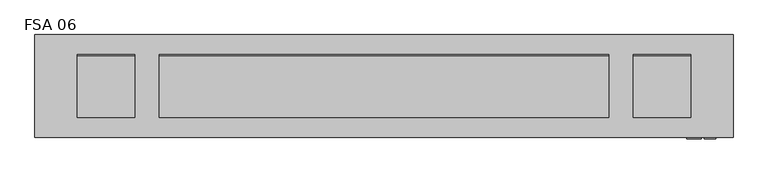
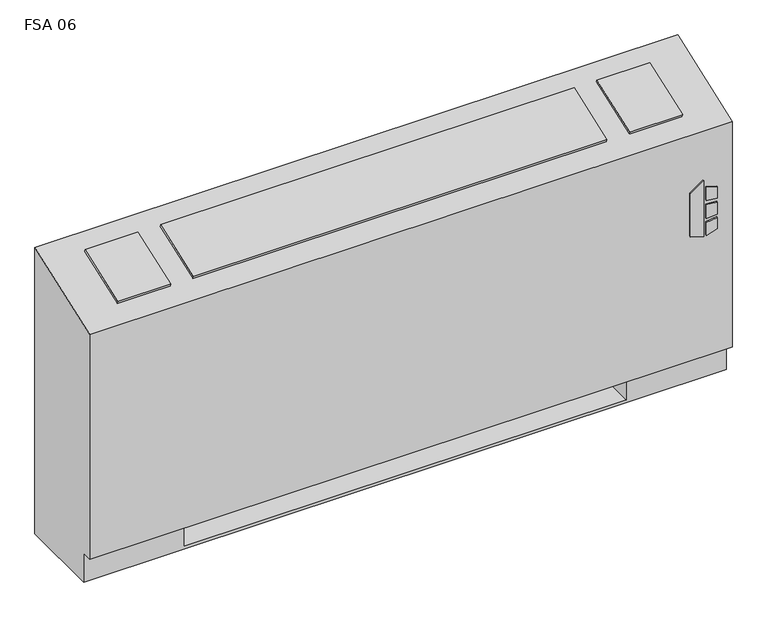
"""IFC4 building model written with IfcOpenShell, lengths in millimetres: proxy geometry, Vertical_Fan_Coil_Unit_-_FSA_-_IEC_-_2-Pipe_TS-FR_LH_2022 : FSA 06."""

from ifc_helpers import new_model, si_unit, point, frame, frame_2d, origin, place, context, project, spatial, polyline, circle_curve, trimmed, segment, composite_curve, outline, extrude, source, transform, mapped, element, save
from ifc_brep_helpers import plane_surface, revolved_surface, advanced_brep


def fsa_06_9042caff(model_context):
    return source(origin(), model_context, "Body", "SolidModel", [
        extrude(outline(polyline([(391.6086829, 823.9868862), (381.6606126, 856.1602728), (523.831537, 856.1602728), (500.8095309, 823.9868862), (391.6086829, 823.9868862)])), frame((0.0, 12.7, 0.0), z_axis=(0.0, 1.0, 0.0), x_axis=(0.0, 0.0, 1.0)), (0.0, 0.0, 1.0), 3.175),
        extrude(outline(polyline([(470.6079683, 862.9186058), (467.4055757, 889.0), (496.6344168, 889.0), (504.6988318, 862.9186058), (470.6079683, 862.9186058)])), frame((0.0, 12.7, 0.0), z_axis=(0.0, 1.0, 0.0), x_axis=(0.0, 0.0, 1.0)), (0.0, 0.0, 1.0), 3.175),
        extrude(outline(polyline([(418.7444414, 889.0), (415.0789404, 862.9186058), (381.6606126, 862.9186058), (390.2948498, 889.0), (418.7444414, 889.0)])), frame((0.0, 12.7, 0.0), z_axis=(0.0, 1.0, 0.0), x_axis=(0.0, 0.0, 1.0)), (0.0, 0.0, 1.0), 3.175),
        extrude(outline(polyline([(458.0596028, 889.0), (460.3414292, 862.9186058), (424.4038806, 862.9186058), (427.1451456, 889.0), (458.0596028, 889.0)])), frame((0.0, 12.7, 0.0), z_axis=(0.0, 1.0, 0.0), x_axis=(0.0, 0.0, 1.0)), (0.0, 0.0, 1.0), 3.175),
        extrude(outline(polyline([(806.45, 223.266), (806.45, 81.534), (685.8, 81.534), (685.8, 223.266), (806.45, 223.266)])), frame((0.0, 0.0, 327.025), z_axis=(0.0, 0.0, 1.0), x_axis=(1.0, 0.0, 0.0)), (0.0, 0.0, 1.0), 260.35),
        extrude(outline(composite_curve([segment(trimmed(circle_curve(frame_2d((-444.5, 130.175)), 9.525), [point((-454.025, 130.175))], [point((-434.975, 130.175))], False, "CARTESIAN"), True, "CONTINUOUS"), segment(trimmed(circle_curve(frame_2d((-444.5, 130.175)), 9.525), [point((-434.975, 130.175))], [point((-454.025, 130.175))], False, "CARTESIAN"), True, "CONTINUOUS")], self_intersect=False)), frame((0.0, 0.0, 101.6), z_axis=(0.0, 0.0, 1.0), x_axis=(1.0, 0.0, 0.0)), (0.0, 0.0, 1.0), 25.4),
        extrude(outline(polyline([(-546.1, 63.5), (-546.1, 196.85), (-381.0, 196.85), (-381.0, 63.5), (-546.1, 63.5)])), frame((0.0, 0.0, 127.0), z_axis=(0.0, 0.0, 1.0), x_axis=(1.0, 0.0, 0.0)), (0.0, 0.0, 1.0), 50.8),
        extrude(outline(polyline([(0.0, -146.0500001), (0.0, 0.0), (127.0, 0.0), (127.0, -146.0500001), (0.0, -146.0500001)])), frame((-528.193, 200.4217127, 714.3418685), z_axis=(0.0, -0.3396444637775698, 0.9405538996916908), x_axis=(1.0, 0.0, 0.0)), (0.0, 0.0, 1.0), 6.35),
        extrude(outline(polyline([(0.0, -146.0500001), (0.0, 0.0), (996.95, 0.0), (996.95, -146.0500001), (0.0, -146.0500001)])), frame((650.875, 63.0538156, 664.7367945), z_axis=(0.0, -0.33964446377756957, 0.9405538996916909), x_axis=(-1.0, 0.0, 0.0)), (0.0, 0.0, 1.0), 6.35),
        extrude(outline(polyline([(0.0, -146.0500001), (0.0, 0.0), (127.0, 0.0), (127.0, -146.0500001), (0.0, -146.0500001)])), frame((832.993, 63.0538156, 664.7367945), z_axis=(0.0, -0.3396444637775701, 0.9405538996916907), x_axis=(-1.0, 0.0, 0.0)), (0.0, 0.0, 1.0), 6.35),
        extrude(outline(composite_curve([segment(trimmed(circle_curve(frame_2d((109.347, 456.819)), 7.9375), [point((109.347, 464.7565))], [point((109.347, 448.8815))], False, "CARTESIAN"), True, "CONTINUOUS"), segment(trimmed(circle_curve(frame_2d((109.347, 456.819)), 7.9375), [point((109.347, 448.8815))], [point((109.347, 464.7565))], False, "CARTESIAN"), True, "CONTINUOUS")], self_intersect=False)), frame((-431.8, 0.0, 0.0), z_axis=(1.0, 0.0, 0.0), x_axis=(0.0, 1.0, 0.0)), (0.0, 0.0, 1.0), 50.8),
        extrude(outline(composite_curve([segment(trimmed(circle_curve(frame_2d((157.4546, 429.4632)), 7.9375), [point((157.4546, 437.4007))], [point((157.4546, 421.5257))], False, "CARTESIAN"), True, "CONTINUOUS"), segment(trimmed(circle_curve(frame_2d((157.4546, 429.4632)), 7.9375), [point((157.4546, 421.5257))], [point((157.4546, 437.4007))], False, "CARTESIAN"), True, "CONTINUOUS")], self_intersect=False)), frame((-431.8, 0.0, 0.0), z_axis=(1.0, 0.0, 0.0), x_axis=(0.0, 1.0, 0.0)), (0.0, 0.0, 1.0), 50.8),
        advanced_brep(
        [(-622.3, 244.475, 0.0), (927.1, 244.475, 0.0), (927.1, 41.275, 0.0), (-622.3, 41.275, 0.0), (-622.3, 244.475, 730.25), (927.1, 244.475, 730.25), (685.8, 244.475, 73.025), (914.4, 244.475, 73.025), (914.4, 244.475, 654.05), (685.8, 244.475, 654.05), (685.8, 244.475, 414.8650565), (714.375, 244.475, 414.8650565), (714.375, 244.475, 385.2349435), (685.8, 244.475, 385.2349435), (685.8, 244.475, 287.3375), (714.375, 244.475, 287.3375), (714.375, 244.475, 258.7625), (685.8, 244.475, 258.7625), (685.8, 244.475, 141.2875), (714.375, 244.475, 141.2875), (714.375, 244.475, 112.7125), (685.8, 244.475, 112.7125), (-381.0, 244.475, 654.05), (-609.6, 244.475, 654.05), (-609.6, 244.475, 73.025), (-381.0, 244.475, 73.025), (-381.0, 244.475, 112.7125), (-409.575, 244.475, 112.7125), (-409.575, 244.475, 141.2875), (-381.0, 244.475, 141.2875), (-381.0, 244.475, 258.7625), (-409.575, 244.475, 258.7625), (-409.575, 244.475, 287.3375), (-381.0, 244.475, 287.3375), (-381.0, 244.475, 385.2349435), (-409.575, 244.475, 385.2349435), (-409.575, 244.475, 414.8650565), (-381.0, 244.475, 414.8650565), (704.0626, 244.475, 127.0), (692.9374, 244.475, 127.0), (704.0626, 244.475, 400.05), (692.9374, 244.475, 400.05), (704.0626, 244.475, 273.05), (692.9374, 244.475, 273.05), (-388.1374, 244.475, 127.0), (-399.2626, 244.475, 127.0), (-388.1374, 244.475, 273.05), (-399.2626, 244.475, 273.05), (-388.1374, 244.475, 400.05), (-399.2626, 244.475, 400.05), (-622.3, 41.275, 73.025), (-622.3, 15.875, 73.025), (-622.3, 15.875, 647.7), (927.1, 15.875, 73.025), (927.1, 15.875, 647.7), (927.1, 41.275, 73.025), (-381.0, 41.275, 73.025), (-381.0, 225.425, 73.025), (685.8, 225.425, 73.025), (685.8, 41.275, 73.025), (685.8, 41.275, 6.35), (-381.0, 41.275, 6.35), (685.8, 41.275, 654.05), (914.4, 41.275, 654.05), (914.4, 41.275, 73.025), (685.8, 41.275, 73.025), (-381.0, 41.275, 654.05), (-381.0, 41.275, 73.025), (-609.6, 41.275, 73.025), (-609.6, 41.275, 654.05), (685.8, 225.425, 73.025), (685.8, 238.125, 112.7125), (685.8, 238.125, 141.2875), (685.8, 238.125, 258.7625), (685.8, 238.125, 287.3375), (685.8, 238.125, 385.2349435), (685.8, 238.125, 414.8650565), (-381.0, 225.425, 73.025), (-381.0, 238.125, 414.8650565), (-381.0, 238.125, 385.2349435), (-381.0, 238.125, 287.3375), (-381.0, 238.125, 258.7625), (-381.0, 238.125, 141.2875), (-381.0, 238.125, 112.7125), (-381.0, 225.425, 6.35), (685.8, 225.425, 6.35), (714.375, 238.125, 112.7125), (714.375, 238.125, 141.2875), (692.9374, 238.125, 127.0), (704.0626, 238.125, 127.0), (714.375, 238.125, 258.7625), (714.375, 238.125, 287.3375), (692.9374, 238.125, 273.05), (704.0626, 238.125, 273.05), (714.375, 238.125, 385.2349435), (714.375, 238.125, 414.8650565), (692.9374, 238.125, 400.05), (704.0626, 238.125, 400.05), (-409.575, 238.125, 141.2875), (-409.575, 238.125, 112.7125), (-399.2626, 238.125, 127.0), (-388.1374, 238.125, 127.0), (-409.575, 238.125, 287.3375), (-409.575, 238.125, 258.7625), (-399.2626, 238.125, 273.05), (-388.1374, 238.125, 273.05), (-409.575, 238.125, 414.8650565), (-409.575, 238.125, 385.2349435), (-399.2626, 238.125, 400.05), (-388.1374, 238.125, 400.05)],
        [
            (0, 1),
            (1, 2),
            (2, 3),
            (3, 0),
            (0, 4),
            (4, 5),
            (5, 1),
            (6, 7),
            (7, 8),
            (8, 9),
            (9, 10),
            (10, 11),
            (11, 12),
            (12, 13),
            (13, 14),
            (14, 15),
            (15, 16),
            (16, 17),
            (17, 18),
            (18, 19),
            (19, 20),
            (20, 21),
            (21, 6),
            (22, 23),
            (23, 24),
            (24, 25),
            (25, 26),
            (26, 27),
            (27, 28),
            (28, 29),
            (29, 30),
            (30, 31),
            (31, 32),
            (32, 33),
            (33, 34),
            (34, 35),
            (35, 36),
            (36, 37),
            (37, 22),
            (38, 39, circle_curve(frame((698.5, 244.475, 127.0), z_axis=(0.0, -1.0, 0.0), x_axis=(-1.0, 0.0, 0.0)), 5.5626)),
            (39, 38, circle_curve(frame((698.5, 244.475, 127.0), z_axis=(0.0, -1.0, 0.0), x_axis=(-1.0, 0.0, 0.0)), 5.5626)),
            (40, 41, circle_curve(frame((698.5, 244.475, 400.05), z_axis=(0.0, -1.0, 0.0), x_axis=(-1.0, 0.0, 0.0)), 5.5626)),
            (41, 40, circle_curve(frame((698.5, 244.475, 400.05), z_axis=(0.0, -1.0, 0.0), x_axis=(-1.0, 0.0, 0.0)), 5.5626)),
            (42, 43, circle_curve(frame((698.5, 244.475, 273.05), z_axis=(0.0, -1.0, 0.0), x_axis=(-1.0, 0.0, 0.0)), 5.5626)),
            (43, 42, circle_curve(frame((698.5, 244.475, 273.05), z_axis=(0.0, -1.0, 0.0), x_axis=(-1.0, 0.0, 0.0)), 5.5626)),
            (44, 45, circle_curve(frame((-393.7, 244.475, 127.0), z_axis=(0.0, -1.0, 0.0), x_axis=(-1.0, 0.0, 0.0)), 5.5626)),
            (45, 44, circle_curve(frame((-393.7, 244.475, 127.0), z_axis=(0.0, -1.0, 0.0), x_axis=(-1.0, 0.0, 0.0)), 5.5626)),
            (46, 47, circle_curve(frame((-393.7, 244.475, 273.05), z_axis=(0.0, -1.0, 0.0), x_axis=(-1.0, 0.0, 0.0)), 5.5626)),
            (47, 46, circle_curve(frame((-393.7, 244.475, 273.05), z_axis=(0.0, -1.0, 0.0), x_axis=(-1.0, 0.0, 0.0)), 5.5626)),
            (48, 49, circle_curve(frame((-393.7, 244.475, 400.05), z_axis=(0.0, -1.0, 0.0), x_axis=(-1.0, 0.0, 0.0)), 5.5626)),
            (49, 48, circle_curve(frame((-393.7, 244.475, 400.05), z_axis=(0.0, -1.0, 0.0), x_axis=(-1.0, 0.0, 0.0)), 5.5626)),
            (3, 50),
            (50, 51),
            (51, 52),
            (52, 4),
            (51, 53),
            (53, 54),
            (54, 52),
            (5, 54),
            (53, 55),
            (55, 2),
            (50, 56),
            (56, 57),
            (57, 58),
            (58, 59),
            (59, 55),
            (59, 60),
            (60, 61),
            (61, 56),
            (62, 63),
            (63, 64),
            (64, 65),
            (65, 62),
            (66, 67),
            (67, 68),
            (68, 69),
            (69, 66),
            (65, 70),
            (70, 6),
            (21, 71),
            (71, 72),
            (72, 18),
            (17, 73),
            (73, 74),
            (74, 14),
            (13, 75),
            (75, 76),
            (76, 10),
            (9, 62),
            (64, 7),
            (63, 8),
            (69, 23),
            (22, 66),
            (68, 24),
            (67, 77),
            (77, 25),
            (37, 78),
            (78, 79),
            (79, 34),
            (33, 80),
            (80, 81),
            (81, 30),
            (29, 82),
            (82, 83),
            (83, 26),
            (57, 84),
            (84, 85),
            (85, 58),
            (85, 60),
            (84, 61),
            (71, 86),
            (86, 87),
            (87, 72),
            (88, 89, circle_curve(frame((698.5, 238.125, 127.0), z_axis=(0.0, 1.0, 0.0), x_axis=(-1.0, 0.0, 0.0)), 5.5626)),
            (89, 88, circle_curve(frame((698.5, 238.125, 127.0), z_axis=(0.0, 1.0, 0.0), x_axis=(-1.0, 0.0, 0.0)), 5.5626)),
            (73, 90),
            (90, 91),
            (91, 74),
            (92, 93, circle_curve(frame((698.5, 238.125, 273.05), z_axis=(0.0, 1.0, 0.0), x_axis=(-1.0, 0.0, 0.0)), 5.5626)),
            (93, 92, circle_curve(frame((698.5, 238.125, 273.05), z_axis=(0.0, 1.0, 0.0), x_axis=(-1.0, 0.0, 0.0)), 5.5626)),
            (75, 94),
            (94, 95),
            (95, 76),
            (96, 97, circle_curve(frame((698.5, 238.125, 400.05), z_axis=(0.0, 1.0, 0.0), x_axis=(-1.0, 0.0, 0.0)), 5.5626)),
            (97, 96, circle_curve(frame((698.5, 238.125, 400.05), z_axis=(0.0, 1.0, 0.0), x_axis=(-1.0, 0.0, 0.0)), 5.5626)),
            (98, 99),
            (99, 83),
            (82, 98),
            (100, 101, circle_curve(frame((-393.7, 238.125, 127.0), z_axis=(0.0, 1.0, 0.0), x_axis=(-1.0, 0.0, 0.0)), 5.5626)),
            (101, 100, circle_curve(frame((-393.7, 238.125, 127.0), z_axis=(0.0, 1.0, 0.0), x_axis=(-1.0, 0.0, 0.0)), 5.5626)),
            (102, 103),
            (103, 81),
            (80, 102),
            (104, 105, circle_curve(frame((-393.7, 238.125, 273.05), z_axis=(0.0, 1.0, 0.0), x_axis=(-1.0, 0.0, 0.0)), 5.5626)),
            (105, 104, circle_curve(frame((-393.7, 238.125, 273.05), z_axis=(0.0, 1.0, 0.0), x_axis=(-1.0, 0.0, 0.0)), 5.5626)),
            (106, 107),
            (107, 79),
            (78, 106),
            (108, 109, circle_curve(frame((-393.7, 238.125, 400.05), z_axis=(0.0, 1.0, 0.0), x_axis=(-1.0, 0.0, 0.0)), 5.5626)),
            (109, 108, circle_curve(frame((-393.7, 238.125, 400.05), z_axis=(0.0, 1.0, 0.0), x_axis=(-1.0, 0.0, 0.0)), 5.5626)),
            (87, 19),
            (86, 20),
            (91, 15),
            (90, 16),
            (95, 11),
            (94, 12),
            (28, 98),
            (99, 27),
            (32, 102),
            (103, 31),
            (36, 106),
            (107, 35),
            (88, 39),
            (38, 89),
            (96, 41),
            (40, 97),
            (92, 43),
            (42, 93),
            (100, 45),
            (44, 101),
            (104, 47),
            (46, 105),
            (108, 49),
            (48, 109),
        ],
        [
            plane_surface(frame((-622.3, 244.475, 0.0), z_axis=(0.0, 0.0, -1.0), x_axis=(1.0, 0.0, 0.0))),
            plane_surface(frame((927.1, 244.475, 730.25), z_axis=(0.0, 1.0, 0.0), x_axis=(0.0, 0.0, -1.0))),
            plane_surface(frame((-622.3, 244.475, 730.25), z_axis=(-1.0, 0.0, 0.0), x_axis=(0.0, 0.0, -1.0))),
            plane_surface(frame((-622.3, 15.875, 730.25), z_axis=(0.0, -1.0, 0.0), x_axis=(0.0, 0.0, -1.0))),
            plane_surface(frame((927.1, 15.875, 730.25), z_axis=(1.0, 0.0, 0.0), x_axis=(0.0, 0.0, -1.0))),
            plane_surface(frame((-622.3, 15.875, 73.025), z_axis=(0.0, 0.0, -1.0), x_axis=(1.0, 0.0, 0.0))),
            plane_surface(frame((-622.3, 41.275, 73.025), z_axis=(0.0, -1.0, 0.0), x_axis=(1.0, 0.0, 0.0))),
            plane_surface(frame((685.8, 41.275, 654.05), z_axis=(0.0, 1.0, 0.0), x_axis=(0.0, 0.0, -1.0))),
            plane_surface(frame((685.8, 41.275, 654.05), z_axis=(1.0, 0.0, 0.0), x_axis=(0.0, 1.0, 0.0))),
            plane_surface(frame((685.8, 41.275, 73.025), z_axis=(0.0, 0.0, 1.0), x_axis=(0.0, 1.0, 0.0))),
            plane_surface(frame((914.4, 41.275, 73.025), z_axis=(-1.0, 0.0, 0.0), x_axis=(0.0, 1.0, 0.0))),
            plane_surface(frame((914.4, 41.275, 654.05), z_axis=(0.0, 0.0, -1.0), x_axis=(0.0, 1.0, 0.0))),
            plane_surface(frame((-381.0, 41.275, 654.05), z_axis=(0.0, 0.0, -1.0), x_axis=(0.0, 1.0, 0.0))),
            plane_surface(frame((-609.6, 41.275, 654.05), z_axis=(1.0, 0.0, 0.0), x_axis=(0.0, 1.0, 0.0))),
            plane_surface(frame((-609.6, 41.275, 73.025), z_axis=(0.0, 0.0, 1.0), x_axis=(0.0, 1.0, 0.0))),
            plane_surface(frame((-381.0, 41.275, 73.025), z_axis=(-1.0, 0.0, 0.0), x_axis=(0.0, 1.0, 0.0))),
            plane_surface(frame((685.8, 225.425, 73.025), z_axis=(0.0, -1.0, 0.0), x_axis=(0.0, 0.0, -1.0))),
            plane_surface(frame((685.8, 225.425, 73.025), z_axis=(-1.0, 0.0, 0.0), x_axis=(0.0, -1.0, 0.0))),
            plane_surface(frame((685.8, 225.425, 6.35), z_axis=(0.0, 0.0, 1.0), x_axis=(0.0, -1.0, 0.0))),
            plane_surface(frame((-381.0, 225.425, 6.35), z_axis=(1.0, 0.0, 0.0), x_axis=(0.0, -1.0, 0.0))),
            plane_surface(frame((714.375, 238.125, 141.2875), z_axis=(0.0, -1.0, 0.0), x_axis=(-1.0, 0.0, 0.0))),
            plane_surface(frame((685.8, 244.475, 141.2875), z_axis=(0.0, 0.0, 1.0), x_axis=(0.0, -1.0, 0.0))),
            plane_surface(frame((714.375, 244.475, 141.2875), z_axis=(1.0, 0.0, 0.0), x_axis=(0.0, -1.0, 0.0))),
            plane_surface(frame((714.375, 244.475, 112.7125), z_axis=(0.0, 0.0, -1.0), x_axis=(0.0, -1.0, 0.0))),
            plane_surface(frame((685.8, 244.475, 287.3375), z_axis=(0.0, 0.0, 1.0), x_axis=(0.0, -1.0, 0.0))),
            plane_surface(frame((714.375, 244.475, 287.3375), z_axis=(1.0, 0.0, 0.0), x_axis=(0.0, -1.0, 0.0))),
            plane_surface(frame((714.375, 244.475, 258.7625), z_axis=(0.0, 0.0, -1.0), x_axis=(0.0, -1.0, 0.0))),
            plane_surface(frame((685.8, 244.475, 414.8650565), z_axis=(0.0, 0.0, 1.0), x_axis=(0.0, -1.0, 0.0))),
            plane_surface(frame((714.375, 244.475, 414.8650565), z_axis=(1.0, 0.0, 0.0), x_axis=(0.0, -1.0, 0.0))),
            plane_surface(frame((714.375, 244.475, 385.2349435), z_axis=(0.0, 0.0, -1.0), x_axis=(0.0, -1.0, 0.0))),
            plane_surface(frame((-409.575, 244.475, 141.2875), z_axis=(0.0, 0.0, 1.0), x_axis=(0.0, -1.0, 0.0))),
            plane_surface(frame((-381.0, 244.475, 112.7125), z_axis=(0.0, 0.0, -1.0), x_axis=(0.0, -1.0, 0.0))),
            plane_surface(frame((-409.575, 244.475, 112.7125), z_axis=(-1.0, 0.0, 0.0), x_axis=(0.0, -1.0, 0.0))),
            plane_surface(frame((-409.575, 244.475, 287.3375), z_axis=(0.0, 0.0, 1.0), x_axis=(0.0, -1.0, 0.0))),
            plane_surface(frame((-381.0, 244.475, 258.7625), z_axis=(0.0, 0.0, -1.0), x_axis=(0.0, -1.0, 0.0))),
            plane_surface(frame((-409.575, 244.475, 258.7625), z_axis=(-1.0, 0.0, 0.0), x_axis=(0.0, -1.0, 0.0))),
            plane_surface(frame((-409.575, 244.475, 414.8650565), z_axis=(0.0, 0.0, 1.0), x_axis=(0.0, -1.0, 0.0))),
            plane_surface(frame((-381.0, 244.475, 385.2349435), z_axis=(0.0, 0.0, -1.0), x_axis=(0.0, -1.0, 0.0))),
            plane_surface(frame((-409.575, 244.475, 385.2349435), z_axis=(-1.0, 0.0, 0.0), x_axis=(0.0, -1.0, 0.0))),
            revolved_surface(polyline([(692.9374, 238.125, 127.0), (692.9374, 244.475, 127.0)]), (698.5, 244.475, 127.0), (0.0, -1.0, 0.0)),
            revolved_surface(polyline([(692.9374, 238.125, 400.05), (692.9374, 244.475, 400.05)]), (698.5, 244.475, 400.05), (0.0, -1.0, 0.0)),
            revolved_surface(polyline([(692.9374, 238.125, 273.05), (692.9374, 244.475, 273.05)]), (698.5, 244.475, 273.05), (0.0, -1.0, 0.0)),
            revolved_surface(polyline([(-399.26259999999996, 238.125, 127.0), (-399.26259999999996, 244.475, 127.0)]), (-393.7, 244.475, 127.0), (0.0, -1.0, 0.0)),
            revolved_surface(polyline([(-399.26259999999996, 238.125, 273.05), (-399.26259999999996, 244.475, 273.05)]), (-393.7, 244.475, 273.05), (0.0, -1.0, 0.0)),
            revolved_surface(polyline([(-399.26259999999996, 238.125, 400.05), (-399.26259999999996, 244.475, 400.05)]), (-393.7, 244.475, 400.05), (0.0, -1.0, 0.0)),
            plane_surface(frame((-622.3, 244.475, 730.25), z_axis=(0.0, -0.33964446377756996, 0.9405538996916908), x_axis=(1.0, 0.0, 0.0))),
        ],
        [
            (0, [[1, 2, 3, 4]]),
            (1, [[-1, 5, 6, 7], [8, 9, 10, 11, 12, 13, 14, 15, 16, 17, 18, 19, 20, 21, 22, 23], [24, 25, 26, 27, 28, 29, 30, 31, 32, 33, 34, 35, 36, 37, 38, 39], [40, 41], [42, 43], [44, 45], [46, 47], [48, 49], [50, 51]]),
            (2, [[-5, -4, 52, 53, 54, 55]]),
            (3, [[56, 57, 58, -54]]),
            (4, [[-7, 59, -57, 60, 61, -2]]),
            (5, [[-53, 62, 63, 64, 65, 66, -60, -56]]),
            (6, [[-3, -61, -66, 67, 68, 69, -62, -52]]),
            (7, [[70, 71, 72, 73]]),
            (7, [[74, 75, 76, 77]]),
            (8, [[-73, 78, 79, -23, 80, 81, 82, -19, 83, 84, 85, -15, 86, 87, 88, -11, 89]]),
            (9, [[-72, 90, -8, -79, -78]]),
            (10, [[-71, 91, -9, -90]]),
            (11, [[-70, -89, -10, -91]]),
            (12, [[-77, 92, -24, 93]]),
            (13, [[-76, 94, -25, -92]]),
            (14, [[-75, 95, 96, -26, -94]]),
            (15, [[-74, -93, -39, 97, 98, 99, -35, 100, 101, 102, -31, 103, 104, 105, -27, -96, -95]]),
            (16, [[-64, 106, 107, 108]]),
            (17, [[-108, 109, -67, -65]]),
            (18, [[-107, 110, -68, -109]]),
            (19, [[-106, -63, -69, -110]]),
            (20, [[111, 112, 113, -81], [114, 115]]),
            (20, [[116, 117, 118, -84], [119, 120]]),
            (20, [[121, 122, 123, -87], [124, 125]]),
            (20, [[126, 127, -104, 128], [129, 130]]),
            (20, [[131, 132, -101, 133], [134, 135]]),
            (20, [[136, 137, -98, 138], [139, 140]]),
            (21, [[-113, 141, -20, -82]]),
            (22, [[-112, 142, -21, -141]]),
            (23, [[-111, -80, -22, -142]]),
            (24, [[-118, 143, -16, -85]]),
            (25, [[-117, 144, -17, -143]]),
            (26, [[-116, -83, -18, -144]]),
            (27, [[-123, 145, -12, -88]]),
            (28, [[-122, 146, -13, -145]]),
            (29, [[-121, -86, -14, -146]]),
            (30, [[-128, -103, -30, 147]]),
            (31, [[-127, 148, -28, -105]]),
            (32, [[-126, -147, -29, -148]]),
            (33, [[-133, -100, -34, 149]]),
            (34, [[-132, 150, -32, -102]]),
            (35, [[-131, -149, -33, -150]]),
            (36, [[-138, -97, -38, 151]]),
            (37, [[-137, 152, -36, -99]]),
            (38, [[-136, -151, -37, -152]]),
            (39, [[153, -40, 154, -114]]),
            (39, [[-153, -115, -154, -41]]),
            (40, [[155, -42, 156, -124]]),
            (40, [[-155, -125, -156, -43]]),
            (41, [[157, -44, 158, -119]]),
            (41, [[-157, -120, -158, -45]]),
            (42, [[159, -46, 160, -129]]),
            (42, [[-159, -130, -160, -47]]),
            (43, [[161, -48, 162, -134]]),
            (43, [[-161, -135, -162, -49]]),
            (44, [[163, -50, 164, -139]]),
            (44, [[-163, -140, -164, -51]]),
            (45, [[-6, -55, -58, -59]]),
        ],
    ),
    ])


if __name__ == "__main__":
    model = new_model("IFC4")
    model_context = context("Model", 3, world=origin())
    ifc_project = project(units=[si_unit("LENGTHUNIT", "METRE", prefix="MILLI")], contexts=[model_context])
    site = spatial("IfcSite", under=ifc_project)
    building = spatial("IfcBuilding", under=site)
    placement = place(None, origin())
    fsa_06_shape = fsa_06_9042caff(model_context)
    element("IfcBuildingElementProxy", 1, Name="Vertical_Fan_Coil_Unit_-_FSA_-_IEC_-_2-Pipe_TS-FR_LH_2022 : FSA 06", ObjectType="Vertical_Fan_Coil_Unit_-_FSA_-_IEC_-_2-Pipe_TS-FR_LH_2022 : FSA 06", at=placement, inside=building, context=model_context, shape_type="MappedRepresentation", body=[
        mapped(fsa_06_shape, transform((0.0, 0.0, 0.0), x_axis=(1.0, 0.0, 0.0), y_axis=(0.0, 1.0, 0.0), z_axis=(0.0, 0.0, 1.0))),
    ])
    save(model, "model.ifc")
